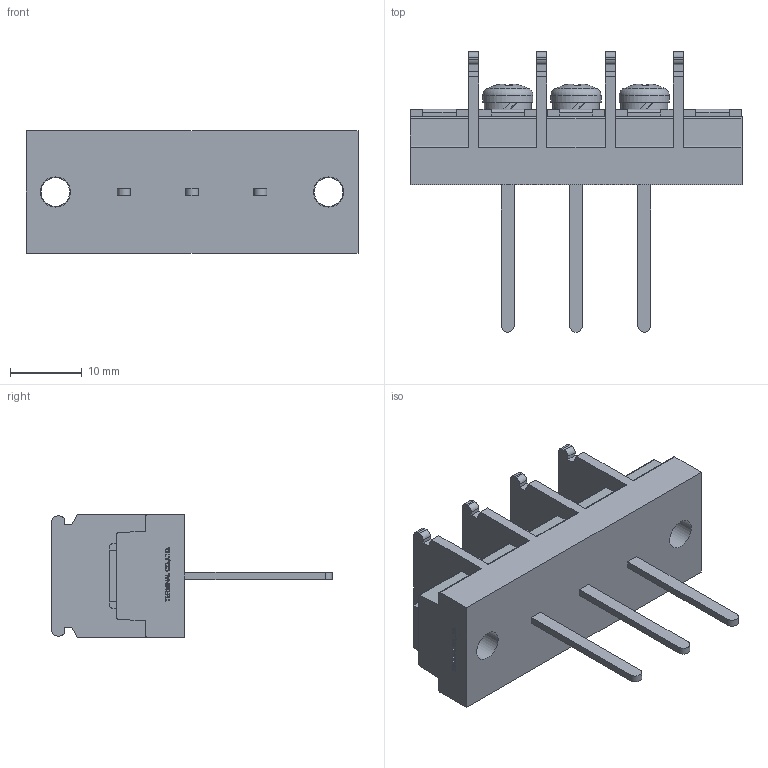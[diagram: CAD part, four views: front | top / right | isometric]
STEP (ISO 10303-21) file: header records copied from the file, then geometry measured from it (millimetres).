
FILE_DESCRIPTION(/* description */ ('Alibre Inc.'),/* implementation_level */ '2;1');
FILE_NAME(/* name */ 'export-2F815A72-EEDD-41C1-AD23-9F7AD1CD9BF8',/* time_stamp */ '2021-02-02T11:18:38+09:00',/* author */ (''),/* organization */ (''),/* preprocessor_version */ 'ST-DEVELOPER v17',/* originating_system */ 'Alibre',/* authorisation */ '');
FILE_SCHEMA (('CONFIG_CONTROL_DESIGN'));
Length unit declared in the file: millimetre
Bounding box: 46.2 x 39 x 17 mm (x, y, z)
Volume: 7899 mm3; surface area: 5446.7 mm2
Topology: 1 solids, 4 shells, 683 faces, 1859 edges, 1237 vertices
Faces by surface type: plane 490, bspline 104, cylinder 65, cone 15, torus 6, sphere 3
Full cylindrical faces by diameter (mm): 4 x8, 4.2 x2, 6.5 x3, 7 x3
Entity records: 20831 total; most frequent: CARTESIAN_POINT 4735, ORIENTED_EDGE 3646, DIRECTION 2462, EDGE_CURVE 1823, VECTOR 1350, LINE 1350, VERTEX_POINT 1223, AXIS2_PLACEMENT_3D 794
